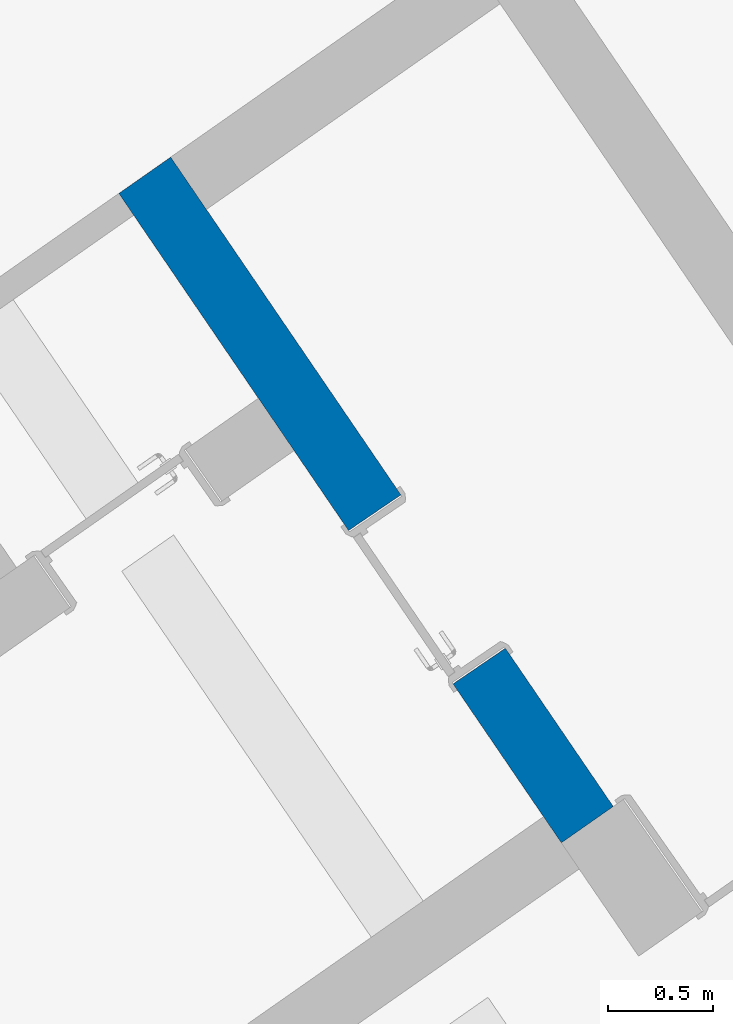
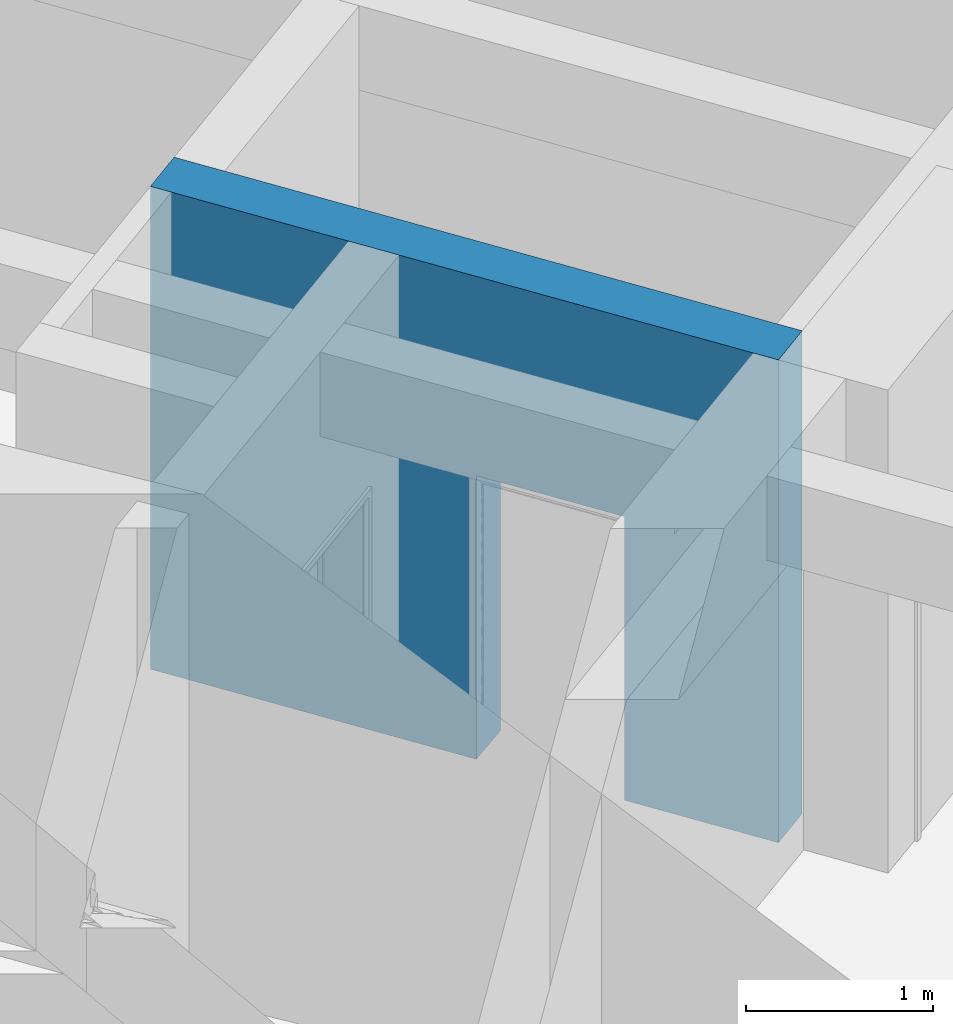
# One storey, part 23 of 112: 1 wall, 1 opening.
"""IFC2X3 building model written with IfcOpenShell, lengths in millimetres."""

from ifc_helpers import new_model, entity, si_unit, converted_unit, derived_unit, direction, frame, frame_2d, origin, place, context, subcontext, project, spatial, polyline, rectangle, outline, extrude, material, layer, layer_set, layer_usage, type_object, element, save


model = new_model("IFC2X3")

# Units and contexts
model_context = context("Model", 3, precision=0.01, world=origin(), true_north=direction((6.123031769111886e-17, 1.0)))
body_context = subcontext(model_context, "Body", "Model", "MODEL_VIEW")
ifc_project = project(units=[si_unit("LENGTHUNIT", "METRE", prefix="MILLI"), si_unit("AREAUNIT", "SQUARE_METRE"), si_unit("VOLUMEUNIT", "CUBIC_METRE"), converted_unit("PLANEANGLEUNIT", "DEGREE", entity("IfcRatioMeasure", 0.017453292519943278), si_unit("PLANEANGLEUNIT", "RADIAN"), dimensions=[0, 0, 0, 0, 0, 0, 0]), si_unit("MASSUNIT", "GRAM", prefix="KILO"), derived_unit("MASSDENSITYUNIT", [(si_unit("MASSUNIT", "GRAM", prefix="KILO"), 1), (si_unit("LENGTHUNIT", "METRE"), -3)]), derived_unit("MOMENTOFINERTIAUNIT", [(si_unit("LENGTHUNIT", "METRE"), 4)]), si_unit("TIMEUNIT", "SECOND"), si_unit("FREQUENCYUNIT", "HERTZ"), si_unit("THERMODYNAMICTEMPERATUREUNIT", "DEGREE_CELSIUS"), derived_unit("THERMALTRANSMITTANCEUNIT", [(si_unit("MASSUNIT", "GRAM", prefix="KILO"), 1), (si_unit("THERMODYNAMICTEMPERATUREUNIT", "KELVIN"), -1), (si_unit("TIMEUNIT", "SECOND"), -3)]), derived_unit("THERMALCONDUCTANCEUNIT", [(si_unit("MASSUNIT", "GRAM", prefix="KILO"), 1), (si_unit("LENGTHUNIT", "METRE"), 1), (si_unit("THERMODYNAMICTEMPERATUREUNIT", "KELVIN"), -1), (si_unit("TIMEUNIT", "SECOND"), -3)]), derived_unit("VOLUMETRICFLOWRATEUNIT", [(si_unit("LENGTHUNIT", "METRE"), 3), (si_unit("TIMEUNIT", "SECOND"), -1)]), derived_unit("MASSFLOWRATEUNIT", [(si_unit("MASSUNIT", "GRAM", prefix="KILO"), 1), (si_unit("TIMEUNIT", "SECOND"), -1)]), derived_unit("ROTATIONALFREQUENCYUNIT", [(si_unit("TIMEUNIT", "SECOND"), -1)]), si_unit("ELECTRICCURRENTUNIT", "AMPERE"), si_unit("ELECTRICVOLTAGEUNIT", "VOLT"), si_unit("POWERUNIT", "WATT"), converted_unit("FORCEUNIT", "KIP", entity("IfcRatioMeasure", 2.088543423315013e-05), si_unit("FORCEUNIT", "NEWTON"), dimensions=[1, 1, -2, 0, 0, 0, 0]), si_unit("ILLUMINANCEUNIT", "LUX"), si_unit("LUMINOUSFLUXUNIT", "LUMEN"), si_unit("LUMINOUSINTENSITYUNIT", "CANDELA"), derived_unit("USERDEFINED", [(si_unit("MASSUNIT", "GRAM", prefix="KILO"), -1), (si_unit("LENGTHUNIT", "METRE"), -2), (si_unit("TIMEUNIT", "SECOND"), 3), (si_unit("LUMINOUSFLUXUNIT", "LUMEN"), 1)]), derived_unit("USERDEFINED", [(si_unit("MASSUNIT", "GRAM", prefix="KILO"), 1), (si_unit("LENGTHUNIT", "METRE"), 3), (si_unit("TIMEUNIT", "SECOND"), -3), (si_unit("ELECTRICCURRENTUNIT", "AMPERE"), -2)]), derived_unit("USERDEFINED", [(si_unit("LENGTHUNIT", "METRE"), 2), (si_unit("TIMEUNIT", "SECOND"), -2)]), derived_unit("SOUNDPOWERUNIT", [(si_unit("MASSUNIT", "GRAM", prefix="KILO"), 1), (si_unit("LENGTHUNIT", "METRE"), 2), (si_unit("TIMEUNIT", "SECOND"), -3)]), derived_unit("SOUNDPRESSUREUNIT", [(si_unit("MASSUNIT", "GRAM", prefix="KILO"), 1), (si_unit("LENGTHUNIT", "METRE"), -1), (si_unit("TIMEUNIT", "SECOND"), -2)]), derived_unit("LINEARVELOCITYUNIT", [(si_unit("LENGTHUNIT", "METRE"), 1), (si_unit("TIMEUNIT", "SECOND"), -1)]), si_unit("PRESSUREUNIT", "PASCAL"), derived_unit("USERDEFINED", [(si_unit("LENGTHUNIT", "METRE"), -2), (si_unit("MASSUNIT", "GRAM", prefix="KILO"), 1), (si_unit("TIMEUNIT", "SECOND"), -2)]), derived_unit("LINEARFORCEUNIT", [(si_unit("MASSUNIT", "GRAM", prefix="KILO"), 1), (si_unit("LENGTHUNIT", "METRE"), 1), (si_unit("TIMEUNIT", "SECOND"), -2), (si_unit("LENGTHUNIT", "METRE"), -1)]), derived_unit("PLANARFORCEUNIT", [(si_unit("MASSUNIT", "GRAM", prefix="KILO"), 1), (si_unit("LENGTHUNIT", "METRE"), 1), (si_unit("TIMEUNIT", "SECOND"), -2), (si_unit("LENGTHUNIT", "METRE"), -2)]), derived_unit("SPECIFICHEATCAPACITYUNIT", [(si_unit("LENGTHUNIT", "METRE"), 2), (si_unit("TIMEUNIT", "SECOND"), -2), (si_unit("THERMODYNAMICTEMPERATUREUNIT", "KELVIN"), -1)]), derived_unit("VAPORPERMEABILITYUNIT", [(si_unit("TIMEUNIT", "SECOND"), 1), (si_unit("LENGTHUNIT", "METRE"), -1)]), derived_unit("DYNAMICVISCOSITYUNIT", [(si_unit("MASSUNIT", "GRAM", prefix="KILO"), 1), (si_unit("LENGTHUNIT", "METRE"), -1), (si_unit("TIMEUNIT", "SECOND"), -1)]), derived_unit("THERMALEXPANSIONCOEFFICIENTUNIT", [(si_unit("THERMODYNAMICTEMPERATUREUNIT", "KELVIN"), -1)])], contexts=[model_context])

# Site, building, storey
site_placement = place(None, frame((0.0, 0.0, 0.0), z_axis=(0.0, 0.0, 1.0), x_axis=(0.8191520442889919, 0.5735764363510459, 0.0)))
site = spatial("IfcSite", under=ifc_project, at=site_placement, Name="Default", CompositionType="ELEMENT")
building_placement = place(site_placement, origin())
building = spatial("IfcBuilding", under=site, at=building_placement, CompositionType="ELEMENT")
storey_placement = place(building_placement, frame((0.0, 0.0, -3600.0)))
storey = spatial("IfcBuildingStorey", under=building, at=storey_placement, Name="0.UG -3.60", CompositionType="ELEMENT", Elevation=-3600.0000000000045)

# Wall, opening
ifc_material = material(Name="Analytical Wall Surface_CJC")
ifc_layer = layer(ifc_material, 300.0)
ifc_layer_set = layer_set([ifc_layer], Name="Basic Wall:Wand_Innen_30")
ifc_layer_usage = layer_usage(ifc_layer_set, "AXIS2", "NEGATIVE", 150.0)
wall_type = type_object("IfcWallType", Name="Basic Wall:Wand_Innen_30", PredefinedType="STANDARD", material=ifc_layer_set)
wall_placement = place(storey_placement, frame((-219033.35923321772, 85419.44947620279, 300.0), z_axis=(0.0, 0.0, 1.0), x_axis=(0.012729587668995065, 0.9999189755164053, 0.0)))
wall = element("IfcWallStandardCase", 1, at=wall_placement, inside=storey, type_object=wall_type, material=ifc_layer_usage, Name="Basic Wall:Wand_Innen_30", ObjectType="Basic Wall:Wand_Innen_30", context=body_context, shape_type="SweptSolid", body=[
    extrude(outline(polyline([(3.8191857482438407, -150.0), (3429.0967170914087, -150.0), (3729.1210264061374, -150.0), (3725.301840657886, 150.0), (3600.2917117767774, 150.0), (2550.2066291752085, 150.0), (2250.1823198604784, 150.0), (0.0, 150.0), (3.8191857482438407, -150.0)])), origin(), (0.0, 0.0, 1.0), 3150.0),
])
opening_placement = place(wall_placement, frame((911.8505109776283, -150.0, -300.0)))
element("IfcOpeningElement", 2, at=opening_placement, cuts=wall, Name="Doors_IntSgl:80x210:1", ObjectType="Opening", context=body_context, shape_type="SweptSolid", body=[
    extrude(rectangle(XDim=2150.000000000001, YDim=879.9999999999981, at=frame_2d((1075.0000000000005, 439.99999999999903), x_axis=(1.0, 0.0))), frame((0.0, 0.0, 0.0), z_axis=(0.0, 1.0, 0.0), x_axis=(0.0, 0.0, 1.0)), (0.0, 0.0, 1.0), 299.9999999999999),
])

save(model, "model.ifc")
